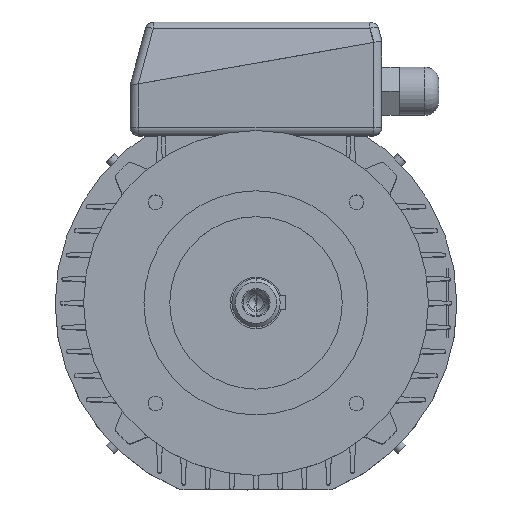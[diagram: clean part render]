
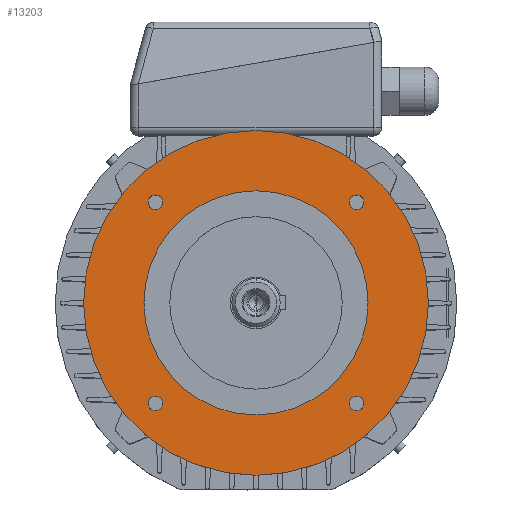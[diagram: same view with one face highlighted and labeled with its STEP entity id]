
A CAD part, top view. The second image highlights one B-rep face of the part: STEP entity #13203.
In plain terms, the highlighted planar face has unit normal (0, 0, 1).
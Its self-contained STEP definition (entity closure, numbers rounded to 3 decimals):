
#16404 = EDGE_CURVE ( 'NONE', #5254, #16329, #10782, .T. ) ;
#51 = EDGE_CURVE ( 'NONE', #16329, #5254, #17138, .T. ) ;
#229 = VERTEX_POINT ( 'NONE', #17221 ) ;
#268 = CIRCLE ( 'NONE', #269, 4.25 ) ;
#269 = AXIS2_PLACEMENT_3D ( 'NONE', #276, #277, #278 ) ;
#276 = CARTESIAN_POINT ( 'NONE',  ( -58.336, 58.336, 51. ) ) ;
#277 = DIRECTION ( 'NONE',  ( 0., 0., 1. ) ) ;
#278 = DIRECTION ( 'NONE',  ( 1., 0., 0. ) ) ;
#486 = ORIENTED_EDGE ( 'NONE', *, *, #51, .F. ) ;
#16932 = ORIENTED_EDGE ( 'NONE', *, *, #8240, .T. ) ;
#670 = CARTESIAN_POINT ( 'NONE',  ( 100., 0., 51. ) ) ;
#17093 = ORIENTED_EDGE ( 'NONE', *, *, #5303, .T. ) ;
#17138 = CIRCLE ( 'NONE', #17139, 4.25 ) ;
#17139 = AXIS2_PLACEMENT_3D ( 'NONE', #17140, #17141, #17142 ) ;
#17140 = CARTESIAN_POINT ( 'NONE',  ( -58.336, -58.336, 51. ) ) ;
#17141 = DIRECTION ( 'NONE',  ( 0., 0., 1. ) ) ;
#17142 = DIRECTION ( 'NONE',  ( 1., 0., 0. ) ) ;
#17221 = CARTESIAN_POINT ( 'NONE',  ( 54.086, -58.336, 51. ) ) ;
#868 = CARTESIAN_POINT ( 'NONE',  ( -62.586, -58.336, 51. ) ) ;
#975 = CIRCLE ( 'NONE', #976, 100. ) ;
#976 = AXIS2_PLACEMENT_3D ( 'NONE', #982, #983, #984 ) ;
#982 = CARTESIAN_POINT ( 'NONE',  ( 0., 0., 51. ) ) ;
#983 = DIRECTION ( 'NONE',  ( 0., 0., 1. ) ) ;
#984 = DIRECTION ( 'NONE',  ( 1., 0., 0. ) ) ;
#1149 = CARTESIAN_POINT ( 'NONE',  ( -62.586, 58.336, 51. ) ) ;
#17637 = EDGE_LOOP ( 'NONE', ( #17093, #16932 ) ) ;
#1315 = EDGE_LOOP ( 'NONE', ( #486, #19902 ) ) ;
#17926 = EDGE_CURVE ( 'NONE', #13921, #14079, #14141, .T. ) ;
#1590 = ORIENTED_EDGE ( 'NONE', *, *, #19438, .F. ) ;
#1716 = CARTESIAN_POINT ( 'NONE',  ( -100., 0., 51. ) ) ;
#18367 = ORIENTED_EDGE ( 'NONE', *, *, #17926, .F. ) ;
#2200 = EDGE_CURVE ( 'NONE', #19170, #229, #18921, .T. ) ;
#18921 = CIRCLE ( 'NONE', #18922, 4.25 ) ;
#18922 = AXIS2_PLACEMENT_3D ( 'NONE', #18923, #18924, #18925 ) ;
#18923 = CARTESIAN_POINT ( 'NONE',  ( 58.336, -58.336, 51. ) ) ;
#18924 = DIRECTION ( 'NONE',  ( 0., 0., 1. ) ) ;
#18925 = DIRECTION ( 'NONE',  ( 1., 0., 0. ) ) ;
#19002 = ORIENTED_EDGE ( 'NONE', *, *, #14348, .F. ) ;
#19170 = VERTEX_POINT ( 'NONE', #15177 ) ;
#19438 = EDGE_CURVE ( 'NONE', #229, #19170, #15399, .T. ) ;
#3191 = CIRCLE ( 'NONE', #3192, 100. ) ;
#3192 = AXIS2_PLACEMENT_3D ( 'NONE', #3193, #3194, #3195 ) ;
#3193 = CARTESIAN_POINT ( 'NONE',  ( 0., 0., 51. ) ) ;
#3194 = DIRECTION ( 'NONE',  ( 0., 0., 1. ) ) ;
#3195 = DIRECTION ( 'NONE',  ( 1., 0., 0. ) ) ;
#19616 = EDGE_LOOP ( 'NONE', ( #19002, #18367 ) ) ;
#19902 = ORIENTED_EDGE ( 'NONE', *, *, #16404, .F. ) ;
#20436 = CARTESIAN_POINT ( 'NONE',  ( -54.086, 58.336, 51. ) ) ;
#4221 = VERTEX_POINT ( 'NONE', #20436 ) ;
#4483 = EDGE_CURVE ( 'NONE', #5547, #4221, #268, .T. ) ;
#4884 = CIRCLE ( 'NONE', #4885, 4.25 ) ;
#4885 = AXIS2_PLACEMENT_3D ( 'NONE', #4891, #4892, #4893 ) ;
#4891 = CARTESIAN_POINT ( 'NONE',  ( 58.336, 58.336, 51. ) ) ;
#4892 = DIRECTION ( 'NONE',  ( 0., 0., 1. ) ) ;
#4893 = DIRECTION ( 'NONE',  ( 1., 0., 0. ) ) ;
#5027 = VERTEX_POINT ( 'NONE', #670 ) ;
#5177 = CARTESIAN_POINT ( 'NONE',  ( 62.586, 58.336, 51. ) ) ;
#5254 = VERTEX_POINT ( 'NONE', #868 ) ;
#5303 = EDGE_CURVE ( 'NONE', #5027, #6368, #975, .T. ) ;
#5336 = CIRCLE ( 'NONE', #5337, 4.25 ) ;
#5337 = AXIS2_PLACEMENT_3D ( 'NONE', #5338, #5339, #5340 ) ;
#5338 = CARTESIAN_POINT ( 'NONE',  ( 58.336, 58.336, 51. ) ) ;
#5339 = DIRECTION ( 'NONE',  ( 0., 0., 1. ) ) ;
#5340 = DIRECTION ( 'NONE',  ( 1., 0., 0. ) ) ;
#5547 = VERTEX_POINT ( 'NONE', #1149 ) ;
#6291 = CARTESIAN_POINT ( 'NONE',  ( 54.086, 58.336, 51. ) ) ;
#6368 = VERTEX_POINT ( 'NONE', #1716 ) ;
#6657 = CIRCLE ( 'NONE', #6658, 4.25 ) ;
#6658 = AXIS2_PLACEMENT_3D ( 'NONE', #6659, #6660, #6661 ) ;
#6659 = CARTESIAN_POINT ( 'NONE',  ( -58.336, 58.336, 51. ) ) ;
#6660 = DIRECTION ( 'NONE',  ( 0., 0., 1. ) ) ;
#6661 = DIRECTION ( 'NONE',  ( 1., 0., 0. ) ) ;
#7937 = FACE_BOUND ( 'NONE', #12912, .T. ) ;
#7938 = FACE_BOUND ( 'NONE', #10928, .T. ) ;
#7939 = FACE_BOUND ( 'NONE', #8960, .T. ) ;
#7940 = FACE_BOUND ( 'NONE', #1315, .T. ) ;
#7941 = FACE_BOUND ( 'NONE', #19616, .T. ) ;
#7942 = FACE_OUTER_BOUND ( 'NONE', #17637, .T. ) ;
#7943 = PLANE ( 'NONE',  #7944 ) ;
#7944 = AXIS2_PLACEMENT_3D ( 'NONE', #7945, #7946, #7947 ) ;
#7945 = CARTESIAN_POINT ( 'NONE',  ( 0., 100., 51. ) ) ;
#7946 = DIRECTION ( 'NONE',  ( 0., 0., -1. ) ) ;
#7947 = DIRECTION ( 'NONE',  ( -1., 0., 0. ) ) ;
#8240 = EDGE_CURVE ( 'NONE', #6368, #5027, #3191, .T. ) ;
#8330 = ORIENTED_EDGE ( 'NONE', *, *, #2200, .F. ) ;
#8491 = CARTESIAN_POINT ( 'NONE',  ( -65., 0., 51. ) ) ;
#8593 = CARTESIAN_POINT ( 'NONE',  ( 65., 0., 51. ) ) ;
#8792 = CIRCLE ( 'NONE', #8793, 65. ) ;
#8793 = AXIS2_PLACEMENT_3D ( 'NONE', #8794, #8795, #8796 ) ;
#8794 = CARTESIAN_POINT ( 'NONE',  ( 0., 0., 51. ) ) ;
#8795 = DIRECTION ( 'NONE',  ( 0., 0., 1. ) ) ;
#8796 = DIRECTION ( 'NONE',  ( 1., 0., 0. ) ) ;
#8960 = EDGE_LOOP ( 'NONE', ( #8330, #1590 ) ) ;
#9258 = ORIENTED_EDGE ( 'NONE', *, *, #10483, .F. ) ;
#9872 = EDGE_CURVE ( 'NONE', #10228, #11562, #4884, .T. ) ;
#10228 = VERTEX_POINT ( 'NONE', #5177 ) ;
#10312 = ORIENTED_EDGE ( 'NONE', *, *, #9872, .F. ) ;
#10483 = EDGE_CURVE ( 'NONE', #11562, #10228, #5336, .T. ) ;
#10633 = CARTESIAN_POINT ( 'NONE',  ( -54.086, -58.336, 51. ) ) ;
#10782 = CIRCLE ( 'NONE', #10783, 4.25 ) ;
#10783 = AXIS2_PLACEMENT_3D ( 'NONE', #10784, #10785, #10786 ) ;
#10784 = CARTESIAN_POINT ( 'NONE',  ( -58.336, -58.336, 51. ) ) ;
#10785 = DIRECTION ( 'NONE',  ( 0., 0., 1. ) ) ;
#10786 = DIRECTION ( 'NONE',  ( 1., 0., 0. ) ) ;
#10928 = EDGE_LOOP ( 'NONE', ( #10312, #9258 ) ) ;
#11225 = ORIENTED_EDGE ( 'NONE', *, *, #4483, .F. ) ;
#11562 = VERTEX_POINT ( 'NONE', #6291 ) ;
#11848 = EDGE_CURVE ( 'NONE', #4221, #5547, #6657, .T. ) ;
#12298 = ORIENTED_EDGE ( 'NONE', *, *, #11848, .F. ) ;
#12912 = EDGE_LOOP ( 'NONE', ( #12298, #11225 ) ) ;
#13203 = ADVANCED_FACE ( 'NONE', ( #7937, #7938, #7939, #7940, #7941, #7942 ), #7943, .F. ) ;
#13921 = VERTEX_POINT ( 'NONE', #8491 ) ;
#14079 = VERTEX_POINT ( 'NONE', #8593 ) ;
#14141 = CIRCLE ( 'NONE', #14142, 65. ) ;
#14142 = AXIS2_PLACEMENT_3D ( 'NONE', #14143, #14144, #14154 ) ;
#14143 = CARTESIAN_POINT ( 'NONE',  ( 0., 0., 51. ) ) ;
#14144 = DIRECTION ( 'NONE',  ( 0., 0., 1. ) ) ;
#14154 = DIRECTION ( 'NONE',  ( 1., 0., 0. ) ) ;
#14348 = EDGE_CURVE ( 'NONE', #14079, #13921, #8792, .T. ) ;
#15177 = CARTESIAN_POINT ( 'NONE',  ( 62.586, -58.336, 51. ) ) ;
#15399 = CIRCLE ( 'NONE', #15400, 4.25 ) ;
#15400 = AXIS2_PLACEMENT_3D ( 'NONE', #15401, #15402, #15403 ) ;
#15401 = CARTESIAN_POINT ( 'NONE',  ( 58.336, -58.336, 51. ) ) ;
#15402 = DIRECTION ( 'NONE',  ( 0., 0., 1. ) ) ;
#15403 = DIRECTION ( 'NONE',  ( 1., 0., 0. ) ) ;
#16329 = VERTEX_POINT ( 'NONE', #10633 ) ;
